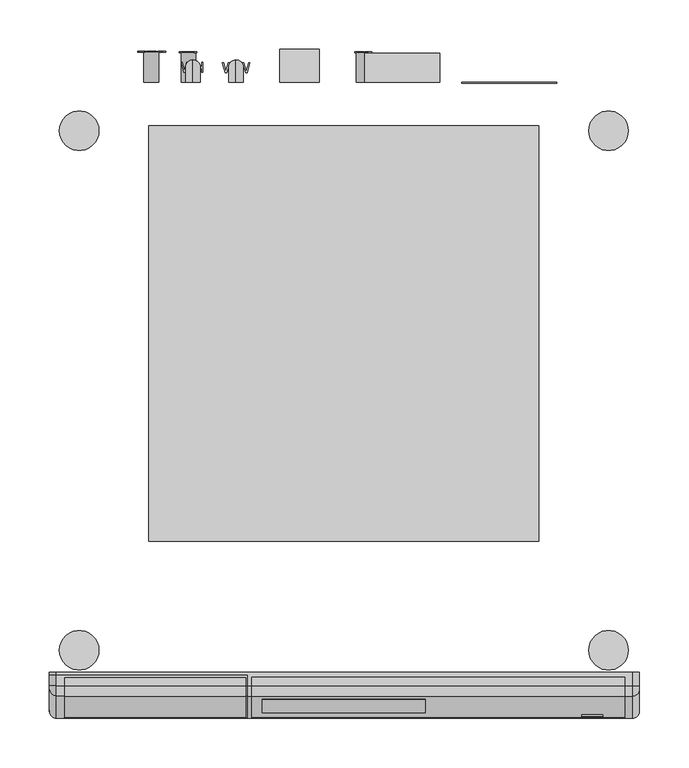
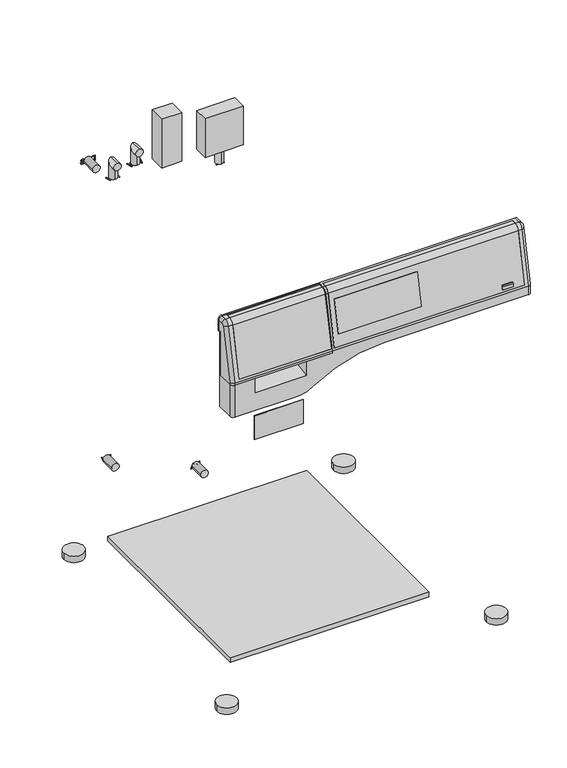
"""IFC4 building model written with IfcOpenShell, lengths in millimetres: proxy geometry, 11087220_NL_PWM507DV_SST : 51507451_NL_11087220_PWM507DV_SST."""

from ifc_helpers import new_model, si_unit, point, frame, frame_2d, origin, origin_with_axes, place, context, project, spatial, polyline, circle_curve, ellipse_curve, trimmed, segment, composite_curve, outline, extrude, source, transform, mapped, element, save
from ifc_brep_helpers import plane_surface, cylinder_surface, revolved_surface, advanced_brep


def specialty_equipment_b1474876(model_context):
    return source(origin(), model_context, "Body", "SolidModel", [
        advanced_brep(
        [(-297.5, -634.5, 819.0), (-297.5, -640.0, 819.0), (-297.5, -640.0, 727.0), (-297.5, -671.0, 727.0), (-297.5, -671.0, 730.2642704), (-297.5, -648.6353607, 835.4816256), (-297.5, -644.8274781, 838.6486082), (-297.5, -634.5, 838.9190427), (-97.5, -655.4823939, 836.9370075), (-97.5, -678.0, 731.0), (-97.5, -678.0, 727.0), (-97.5, -640.0, 727.0), (-97.5, -640.0, 819.0), (-97.5, -634.5, 819.0), (-97.5, -634.5, 845.9214422), (-97.5, -645.0107168, 845.6462094), (-98.5, -655.4823939, 836.9370075), (-98.5, -677.1497738, 735.0), (-282.5, -677.1497738, 735.0), (-282.5, -655.4823939, 836.9370075), (-290.5, -655.4823939, 836.9370075), (-290.5, -678.0, 731.0), (-290.5, -678.0, 727.0), (-290.5, -634.5, 845.9214422), (-290.5, -645.0107168, 845.6462094), (-282.5, -645.0107168, 845.6462094), (-282.5, -636.5, 845.8690704), (-98.5, -636.5, 845.8690704), (-98.5, -645.0107168, 845.6462094), (-98.5, -654.5042463, 836.7290958), (-98.5, -676.1274332, 735.0), (-98.5, -636.5, 844.8687276), (-98.5, -644.9845398, 844.6465521), (-282.5, -654.5042463, 836.7290958), (-282.5, -644.9845398, 844.6465521), (-282.5, -636.5, 844.8687276), (-282.5, -676.1274332, 735.0)],
        [
            (0, 1),
            (1, 2),
            (2, 3),
            (3, 4),
            (4, 5),
            (5, 6, circle_curve(frame((-297.5, -644.7227703, 834.6499789), z_axis=(-1.0, 0.0, 0.0), x_axis=(0.0, -0.978147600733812, 0.20791169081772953)), 4.0)),
            (6, 7),
            (7, 0),
            (8, 9),
            (9, 10),
            (10, 11),
            (11, 12),
            (12, 13),
            (13, 14),
            (14, 15),
            (15, 8, circle_curve(frame((-97.5, -644.7227703, 834.6499789), z_axis=(1.0, 0.0, 0.0), x_axis=(0.0, 1.0, 0.0)), 11.0)),
            (8, 16),
            (16, 17),
            (17, 18),
            (18, 19),
            (19, 20),
            (20, 21),
            (21, 9),
            (21, 22),
            (22, 10),
            (22, 3, circle_curve(frame((-290.5, -671.0, 727.0), z_axis=(0.0, 0.0, -1.0), x_axis=(0.0, 1.0, 0.0)), 7.0)),
            (2, 11),
            (1, 12),
            (0, 13),
            (7, 23, ellipse_curve(frame((-290.5, -634.5, 838.9190427), z_axis=(0.0, 1.0, 0.0), x_axis=(0.0, 0.0, 1.0)), 7.0023995, 7.0)),
            (23, 14),
            (23, 24),
            (24, 25),
            (25, 26),
            (26, 27),
            (27, 28),
            (28, 15),
            (28, 16, circle_curve(frame((-98.5, -644.7227703, 834.6499789), z_axis=(1.0, 0.0, 0.0), x_axis=(0.0, 1.0, 0.0)), 11.0)),
            (19, 25, circle_curve(frame((-282.5, -644.7227703, 834.6499789), z_axis=(-1.0, 0.0, 0.0), x_axis=(0.0, 1.0, 0.0)), 11.0)),
            (24, 20, circle_curve(frame((-290.5, -644.7227703, 834.6499789), z_axis=(1.0, 0.0, 0.0), x_axis=(0.0, 1.0, 0.0)), 11.0)),
            (29, 30),
            (30, 17),
            (27, 31),
            (31, 32),
            (32, 29, circle_curve(frame((-98.5, -644.7227703, 834.6499789), z_axis=(1.0, 0.0, 0.0), x_axis=(0.0, 1.0, 0.0)), 10.0)),
            (33, 34, circle_curve(frame((-282.5, -644.7227703, 834.6499789), z_axis=(-1.0, 0.0, 0.0), x_axis=(0.0, 1.0, 0.0)), 10.0)),
            (34, 35),
            (35, 26),
            (18, 36),
            (36, 33),
            (29, 33),
            (36, 30),
            (32, 34),
            (31, 35),
            (21, 4, ellipse_curve(frame((-290.5, -671.0, 730.2642704), z_axis=(0.0, -0.10452846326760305, -0.9945218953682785), x_axis=(0.0, -0.9945218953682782, 0.1045284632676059)), 7.038558, 7.0)),
            (20, 5, circle_curve(frame((-290.5, -648.6353607, 835.4816256), z_axis=(0.0, -0.2079116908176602, -0.9781476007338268), x_axis=(0.0, 0.9781476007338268, -0.2079116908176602)), 7.0)),
            (24, 6, circle_curve(frame((-290.5, -644.8274781, 838.6486082), z_axis=(0.0, -0.9996573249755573, -0.026176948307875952), x_axis=(0.0, 0.026176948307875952, -0.9996573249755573)), 7.0)),
        ],
        [
            plane_surface(frame((-297.5, -655.4823939, 836.9370075), z_axis=(-1.0, 0.0, 0.0), x_axis=(0.0, 0.20791169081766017, 0.9781476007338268))),
            plane_surface(frame((-97.5, -655.4823939, 836.9370075), z_axis=(1.0, 0.0, 0.0), x_axis=(0.0, -0.20791169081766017, -0.9781476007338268))),
            plane_surface(frame((-97.5, -655.4823939, 836.9370075), z_axis=(0.0, -0.9781476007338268, 0.20791169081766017), x_axis=(-1.0, 0.0, 0.0))),
            plane_surface(frame((-97.5, -678.0, 731.0), z_axis=(0.0, -1.0, 0.0), x_axis=(-1.0, 0.0, 0.0))),
            plane_surface(frame((-97.5, -678.0, 727.0), z_axis=(0.0, 0.0, -1.0), x_axis=(-1.0, 0.0, 0.0))),
            plane_surface(frame((-97.5, -640.0, 727.0), z_axis=(0.0, 1.0, 0.0), x_axis=(-1.0, 0.0, 0.0))),
            plane_surface(frame((-97.5, -640.0, 819.0), z_axis=(0.0, 0.0, -1.0), x_axis=(-1.0, 0.0, 0.0))),
            plane_surface(frame((-97.5, -634.5, 819.0), z_axis=(0.0, 1.0, 0.0), x_axis=(-1.0, 0.0, 0.0))),
            plane_surface(frame((-97.5, -634.5, 845.9214422), z_axis=(0.0, -0.02617694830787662, 0.9996573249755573), x_axis=(-1.0, 0.0, 0.0))),
            cylinder_surface(frame((-297.5, -644.7227703, 834.6499789), z_axis=(1.0, 0.0, 0.0), x_axis=(0.0, 1.0, 0.0)), 11.0),
            plane_surface(frame((-98.5, -634.7227703, 834.6499789), z_axis=(-1.0, 0.0, 0.0), x_axis=(0.0, 0.0, -1.0))),
            plane_surface(frame((-282.5, -634.7227703, 834.6499789), z_axis=(1.0, 0.0, 0.0), x_axis=(0.0, 0.0, 1.0))),
            plane_surface(frame((-98.5, -676.1274332, 735.0), z_axis=(0.0, -0.9781476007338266, 0.2079116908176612), x_axis=(-1.0, 0.0, 0.0))),
            cylinder_surface(frame((-282.5, -644.7227703, 834.6499789), z_axis=(-1.0, 0.0, 0.0), x_axis=(0.0, 1.0, 0.0)), 10.0),
            plane_surface(frame((-98.5, -644.9845398, 844.6465521), z_axis=(0.0, -0.026176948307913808, 0.9996573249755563), x_axis=(-1.0, 0.0, 0.0))),
            plane_surface(frame((-98.5, -636.5, 844.8687276), z_axis=(0.0, -1.0, 0.0), x_axis=(-1.0, 0.0, 0.0))),
            plane_surface(frame((-98.5, -677.1497738, 735.0), z_axis=(0.0, 0.0, 1.0), x_axis=(-1.0, 0.0, 0.0))),
            cylinder_surface(frame((-290.5, -671.0, 727.0), z_axis=(0.0, 0.0, 1.0), x_axis=(0.0, 1.0, 0.0)), 7.0),
            cylinder_surface(frame((-290.5, -671.1529668, 729.5446182), z_axis=(0.0, 0.2079116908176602, 0.9781476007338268), x_axis=(0.0, 0.9781476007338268, -0.2079116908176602)), 7.0),
            revolved_surface(trimmed(ellipse_curve(frame((-290.5, -648.6353607, 835.4816256), z_axis=(0.0, -0.20791169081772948, -0.978147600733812), x_axis=(0.0, 0.978147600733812, -0.20791169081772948)), 7.0, 7.0), [point((-290.5, -655.4823939, 836.9370075))], [point((-297.5, -648.6353607, 835.4816256))], True, "CARTESIAN"), (-297.5, -644.7227703, 834.6499789), (-1.0, 0.0, 0.0)),
            cylinder_surface(frame((-290.5, -644.8274781, 838.6486082), z_axis=(0.0, 0.9996573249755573, 0.026176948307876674), x_axis=(0.0, 0.026176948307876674, -0.9996573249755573)), 7.0),
        ],
        [
            (0, [[1, 2, 3, 4, 5, 6, 7, 8]]),
            (1, [[9, 10, 11, 12, 13, 14, 15, 16]]),
            (2, [[-9, 17, 18, 19, 20, 21, 22, 23]]),
            (3, [[-10, -23, 24, 25]]),
            (4, [[-11, -25, 26, -3, 27]]),
            (5, [[-2, 28, -12, -27]]),
            (6, [[-1, 29, -13, -28]]),
            (7, [[-14, -29, -8, 30, 31]]),
            (8, [[-15, -31, 32, 33, 34, 35, 36, 37]]),
            (9, [[-16, -37, 38, -17]]),
            (9, [[39, -33, 40, -21]]),
            (10, [[41, 42, -18, -38, -36, 43, 44, 45]]),
            (11, [[46, 47, 48, -34, -39, -20, 49, 50]]),
            (12, [[-41, 51, -50, 52]]),
            (13, [[-45, 53, -46, -51]]),
            (14, [[-44, 54, -47, -53]]),
            (15, [[-43, -35, -48, -54]]),
            (16, [[-42, -52, -49, -19]]),
            (17, [[55, -4, -26, -24]]),
            (18, [[-55, -22, 56, -5]]),
            (19, [[-56, -40, 57, -6]]),
            (20, [[-57, -32, -30, -7]]),
        ],
    ),
        extrude(outline(polyline([(-671.2386322, 758.0), (-672.2609728, 758.0), (-658.4447963, 823.0), (-657.4224557, 823.0), (-671.2386322, 758.0)])), frame((-82.5, 0.0, 0.0), z_axis=(1.0, 0.0, 0.0), x_axis=(0.0, 1.0, 0.0)), (0.0, 0.0, 1.0), 165.0),
        advanced_brep(
        [(284.0, -654.5042463, 836.7290958), (284.0, -644.9845398, 844.6465521), (284.0, -636.5, 844.8687276), (284.0, -636.5, 845.8690704), (284.0, -645.0107168, 845.6462094), (284.0, -655.4823939, 836.9370075), (284.0, -677.1497738, 735.0), (284.0, -676.1274332, 735.0), (-93.0, -654.5042463, 836.7290958), (-93.0, -676.1274332, 735.0), (-93.0, -677.1497738, 735.0), (-93.0, -655.4823939, 836.9370075), (-93.0, -645.0107168, 845.6462094), (-93.0, -636.5, 845.8690704), (-93.0, -636.5, 844.8687276), (-93.0, -644.9845398, 844.6465521), (82.5, -658.4447963, 823.0), (82.5, -672.2609728, 758.0), (-82.5, -672.2609728, 758.0), (-82.5, -658.4447963, 823.0), (82.5, -671.2386322, 758.0), (82.5, -657.4224557, 823.0), (-82.5, -657.4224557, 823.0), (-82.5, -671.2386322, 758.0)],
        [
            (0, 1, circle_curve(frame((284.0, -644.7227703, 834.6499789), z_axis=(-1.0, 0.0, 0.0), x_axis=(0.0, 1.0, 0.0)), 10.0)),
            (1, 2),
            (2, 3),
            (3, 4),
            (4, 5, circle_curve(frame((284.0, -644.7227703, 834.6499789), z_axis=(1.0, 0.0, 0.0), x_axis=(0.0, 1.0, 0.0)), 11.0)),
            (5, 6),
            (6, 7),
            (7, 0),
            (8, 9),
            (9, 10),
            (10, 11),
            (11, 12, circle_curve(frame((-93.0, -644.7227703, 834.6499789), z_axis=(-1.0, 0.0, 0.0), x_axis=(0.0, 1.0, 0.0)), 11.0)),
            (12, 13),
            (13, 14),
            (14, 15),
            (15, 8, circle_curve(frame((-93.0, -644.7227703, 834.6499789), z_axis=(1.0, 0.0, 0.0), x_axis=(0.0, 1.0, 0.0)), 10.0)),
            (0, 8),
            (15, 1),
            (14, 2),
            (13, 3),
            (12, 4),
            (11, 5),
            (10, 6),
            (16, 17),
            (17, 18),
            (18, 19),
            (19, 16),
            (9, 7),
            (20, 21),
            (21, 22),
            (22, 23),
            (23, 20),
            (20, 17),
            (16, 21),
            (22, 19),
            (18, 23),
        ],
        [
            plane_surface(frame((284.0, -634.7227703, 834.6499789), z_axis=(1.0, 0.0, 0.0), x_axis=(0.0, 0.0, -1.0))),
            plane_surface(frame((-93.0, -634.7227703, 834.6499789), z_axis=(-1.0, 0.0, 0.0), x_axis=(0.0, 0.0, 1.0))),
            revolved_surface(polyline([(-93.0, -634.7227703, 834.6499789), (284.0, -634.7227703, 834.6499789)]), (-93.0, -644.7227703, 834.6499789), (-1.0, 0.0, 0.0)),
            plane_surface(frame((284.0, -644.9845398, 844.6465521), z_axis=(0.0, 0.02617694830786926, -0.9996573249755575), x_axis=(-1.0, 0.0, 0.0))),
            plane_surface(frame((284.0, -636.5, 844.8687276), z_axis=(0.0, 1.0, 0.0), x_axis=(-1.0, 0.0, 0.0))),
            plane_surface(frame((284.0, -636.5, 845.8690704), z_axis=(0.0, -0.026176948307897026, 0.9996573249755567), x_axis=(-1.0, 0.0, 0.0))),
            cylinder_surface(frame((-93.0, -644.7227703, 834.6499789), z_axis=(1.0, 0.0, 0.0), x_axis=(0.0, 1.0, 0.0)), 11.0),
            plane_surface(frame((284.0, -655.4823939, 836.9370075), z_axis=(0.0, -0.9781476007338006, 0.20791169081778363), x_axis=(-1.0, 0.0, 0.0))),
            plane_surface(frame((284.0, -677.1497738, 735.0), z_axis=(0.0, 0.0, -1.0), x_axis=(-1.0, 0.0, 0.0))),
            plane_surface(frame((284.0, -676.1274332, 735.0), z_axis=(0.0, 0.9781476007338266, -0.2079116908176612), x_axis=(-1.0, 0.0, 0.0))),
            plane_surface(frame((82.5, -658.4447963, 823.0), z_axis=(-1.0, 0.0, 0.0), x_axis=(0.0, -1.0, 0.0))),
            plane_surface(frame((-82.5, -658.4447963, 823.0), z_axis=(1.0, 0.0, 0.0), x_axis=(0.0, 1.0, 0.0))),
            plane_surface(frame((82.5, -657.4224557, 823.0), z_axis=(0.0, 0.0, -1.0), x_axis=(-1.0, 0.0, 0.0))),
            plane_surface(frame((82.5, -672.2609728, 758.0), z_axis=(0.0, 0.0, 1.0), x_axis=(-1.0, 0.0, 0.0))),
        ],
        [
            (0, [[1, 2, 3, 4, 5, 6, 7, 8]]),
            (1, [[9, 10, 11, 12, 13, 14, 15, 16]]),
            (2, [[-1, 17, -16, 18]]),
            (3, [[-2, -18, -15, 19]]),
            (4, [[-3, -19, -14, 20]]),
            (5, [[-4, -20, -13, 21]]),
            (6, [[-5, -21, -12, 22]]),
            (7, [[-6, -22, -11, 23], [24, 25, 26, 27]]),
            (8, [[-7, -23, -10, 28]]),
            (9, [[-8, -28, -9, -17], [29, 30, 31, 32]]),
            (10, [[33, -24, 34, -29]]),
            (11, [[35, -26, 36, -31]]),
            (12, [[-34, -27, -35, -30]]),
            (13, [[-33, -32, -36, -25]]),
        ],
    ),
        advanced_brep(
        [(298.5, -637.0, 816.0), (298.5, -631.5, 816.0), (298.5, -631.5, 838.9976005), (298.5, -644.8274781, 838.6486082), (298.5, -648.6353607, 835.4816256), (298.5, -671.0, 730.2642704), (298.5, -671.0, 713.0), (298.5, -637.0, 713.0), (-297.5, -637.0, 816.0), (-297.5, -637.0, 660.0), (-297.5, -671.0, 660.0), (-297.5, -671.0, 727.0), (-297.5, -640.0, 727.0), (-297.5, -640.0, 819.0), (-297.5, -634.5, 819.0), (-297.5, -634.5, 838.9190427), (-297.5, -631.5, 838.9976005), (-297.5, -631.5, 816.0), (-290.5, -631.5, 846.0), (291.5, -631.5, 846.0), (284.0, -636.5, 845.8690704), (284.0, -645.0107168, 845.6462094), (291.5, -645.0107168, 845.6462094), (-290.5, -634.5, 845.9214422), (-97.5, -634.5, 845.9214422), (-97.5, -645.0107168, 845.6462094), (-93.0, -645.0107168, 845.6462094), (-93.0, -636.5, 845.8690704), (284.0, -655.4823939, 836.9370075), (291.5000072, -655.4823939, 836.9370075), (-93.0, -655.4823939, 836.9370075), (-97.5, -655.4823939, 836.9370075), (284.0, -677.1497738, 735.0), (-93.0, -677.1497738, 735.0), (-97.5, -678.0, 731.0), (291.5, -678.0, 731.0), (-97.5, -678.0, 727.0), (-148.5, -678.0, 727.0), (-148.5, -678.0, 697.0), (-251.5, -678.0, 697.0), (-251.5, -678.0, 727.0), (-290.5, -678.0, 727.0), (-290.5, -678.0, 660.0), (-170.6302935, -678.0, 660.0), (-135.780818, -678.0, 670.5165354), (5.0, -678.0, 713.0), (291.5, -678.0, 713.0), (-170.6302935, -637.0, 660.0), (5.0, -637.0, 713.0), (-135.780818, -637.0, 670.5165354), (284.0, -636.5, 844.8687276), (284.0, -644.9845398, 844.6465521), (284.0, -654.5042463, 836.7290958), (284.0, -676.1274332, 735.0), (-93.0, -676.1274332, 735.0), (-93.0, -654.5042463, 836.7290958), (-93.0, -644.9845398, 844.6465521), (-93.0, -636.5, 844.8687276), (-97.5, -634.5, 819.0), (-97.5, -640.0, 819.0), (-97.5, -640.0, 727.0), (-148.5, -640.0, 727.0), (-251.5, -640.0, 727.0), (-251.5, -640.0, 703.7004253), (-148.5, -640.0, 703.7004253)],
        [
            (0, 1),
            (1, 2),
            (2, 3),
            (3, 4, circle_curve(frame((298.5, -644.7227703, 834.6499789), z_axis=(1.0, 0.0, 0.0), x_axis=(0.0, -0.02617694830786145, 0.9996573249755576)), 4.0)),
            (4, 5),
            (5, 6),
            (6, 7),
            (7, 0),
            (8, 9),
            (9, 10),
            (10, 11),
            (11, 12),
            (12, 13),
            (13, 14),
            (14, 15),
            (15, 16),
            (16, 17),
            (17, 8),
            (0, 8),
            (17, 1),
            (16, 18, ellipse_curve(frame((-290.5, -631.5, 838.9976005), z_axis=(0.0, 1.0, 0.0), x_axis=(0.0, 0.0, 0.9999999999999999)), 7.0023995, 7.0)),
            (18, 19),
            (19, 2, ellipse_curve(frame((291.5, -631.5, 838.9976005), z_axis=(0.0, 1.0, 0.0), x_axis=(0.0, 0.0, -1.0)), 7.0023995, 7.0)),
            (20, 21),
            (21, 22),
            (22, 19),
            (18, 23),
            (23, 24),
            (24, 25),
            (25, 26),
            (26, 27),
            (27, 20),
            (21, 28, circle_curve(frame((284.0, -644.7227703, 834.6499789), z_axis=(1.0, 0.0, 0.0), x_axis=(0.0, 1.0, 0.0)), 11.0)),
            (28, 29),
            (29, 22, circle_curve(frame((291.5, -644.7227703, 834.6499789), z_axis=(-1.0, 0.0, 0.0), x_axis=(0.0, 1.0, 0.0)), 11.0)),
            (30, 26, circle_curve(frame((-93.0, -644.7227703, 834.6499789), z_axis=(-1.0, 0.0, 0.0), x_axis=(0.0, 1.0, 0.0)), 11.0)),
            (25, 31, circle_curve(frame((-97.5, -644.7227703, 834.6499789), z_axis=(1.0, 0.0, 0.0), x_axis=(0.0, 1.0, 0.0)), 11.0)),
            (31, 30),
            (28, 32),
            (32, 33),
            (33, 30),
            (31, 34),
            (34, 35),
            (35, 29),
            (34, 36),
            (36, 37),
            (37, 38),
            (38, 39),
            (39, 40),
            (40, 41),
            (41, 42),
            (42, 43),
            (43, 44, circle_curve(frame((-170.6302935, -678.0, 723.0), z_axis=(0.0, -1.0, 0.0), x_axis=(1.0, 0.0, 0.0)), 63.0)),
            (44, 45, circle_curve(frame((5.0, -678.0, 458.5), z_axis=(0.0, 1.0, 0.0), x_axis=(1.0, 0.0, 0.0)), 254.5)),
            (45, 46),
            (46, 35),
            (9, 47),
            (47, 43),
            (42, 10, circle_curve(frame((-290.5, -671.0, 660.0), z_axis=(0.0, 0.0, -1.0), x_axis=(0.0, 1.0, 0.0)), 7.0)),
            (7, 48),
            (48, 49, circle_curve(frame((5.0, -637.0, 458.5), z_axis=(0.0, -1.0, 0.0), x_axis=(1.0, 0.0, 0.0)), 254.5)),
            (49, 47, circle_curve(frame((-170.6302935, -637.0, 723.0), z_axis=(0.0, 1.0, 0.0), x_axis=(1.0, 0.0, 0.0)), 63.0)),
            (20, 50),
            (50, 51),
            (51, 52, circle_curve(frame((284.0, -644.7227703, 834.6499789), z_axis=(1.0, 0.0, 0.0), x_axis=(0.0, 1.0, 0.0)), 10.0)),
            (52, 53),
            (53, 32),
            (33, 54),
            (54, 55),
            (55, 56, circle_curve(frame((-93.0, -644.7227703, 834.6499789), z_axis=(-1.0, 0.0, 0.0), x_axis=(0.0, 1.0, 0.0)), 10.0)),
            (56, 57),
            (57, 27),
            (53, 54),
            (52, 55),
            (51, 56),
            (50, 57),
            (24, 58),
            (58, 59),
            (59, 60),
            (60, 36),
            (60, 61),
            (61, 37),
            (62, 12),
            (11, 41, circle_curve(frame((-290.5, -671.0, 727.0), z_axis=(0.0, 0.0, 1.0), x_axis=(0.0, 1.0, 0.0)), 7.0)),
            (40, 62),
            (59, 13),
            (62, 63),
            (63, 64),
            (64, 61),
            (58, 14),
            (23, 15, ellipse_curve(frame((-290.5, -634.5, 838.9190427), z_axis=(0.0, -1.0, 0.0), x_axis=(0.0, 0.0, 0.9999999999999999)), 7.0023995, 7.0)),
            (64, 38),
            (39, 63),
            (22, 3, circle_curve(frame((291.5, -644.8274781, 838.6486082), z_axis=(0.0, 0.9996573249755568, 0.02617694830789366), x_axis=(1.0, 0.0, 0.0)), 7.0)),
            (29, 4, circle_curve(frame((291.5, -648.6353607, 835.4816256), z_axis=(0.0, 0.20791169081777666, 0.9781476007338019), x_axis=(1.0, 0.0, 0.0)), 7.0)),
            (35, 5, ellipse_curve(frame((291.5, -671.0, 730.2642704), z_axis=(0.0, 0.10452846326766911, 0.9945218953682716), x_axis=(0.0, -0.9945218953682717, 0.10452846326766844)), 7.038558, 7.0)),
            (46, 6, circle_curve(frame((291.5, -671.0, 713.0), z_axis=(0.0, 0.0, 1.0), x_axis=(1.0, 0.0, 0.0)), 7.0)),
            (45, 48),
            (44, 49),
        ],
        [
            plane_surface(frame((298.5, -631.5, 816.0), z_axis=(1.0, 0.0, 0.0), x_axis=(0.0, 1.0, 0.0))),
            plane_surface(frame((-297.5, -631.5, 816.0), z_axis=(-1.0, 0.0, 0.0), x_axis=(0.0, -1.0, 0.0))),
            plane_surface(frame((298.5, -637.0, 816.0), z_axis=(0.0, 0.0, -1.0), x_axis=(-1.0, 0.0, 0.0))),
            plane_surface(frame((298.5, -631.5, 816.0), z_axis=(0.0, 1.0, 0.0), x_axis=(-1.0, 0.0, 0.0))),
            plane_surface(frame((298.5, -631.5, 846.0), z_axis=(0.0, -0.026176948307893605, 0.9996573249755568), x_axis=(-1.0, 0.0, 0.0))),
            cylinder_surface(frame((-297.5, -644.7227703, 834.6499789), z_axis=(1.0, 0.0, 0.0), x_axis=(0.0, 1.0, 0.0)), 11.0),
            plane_surface(frame((298.5, -655.4823939, 836.9370075), z_axis=(0.0, -0.9781476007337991, 0.20791169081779), x_axis=(-1.0, 0.0, 0.0))),
            plane_surface(frame((298.5, -678.0, 731.0), z_axis=(0.0, -1.0, 0.0), x_axis=(-1.0, 0.0, 0.0))),
            plane_surface(frame((298.5, -678.0, 660.0), z_axis=(0.0, 0.0, -1.0), x_axis=(-1.0, 0.0, 0.0))),
            plane_surface(frame((298.5, -637.0, 660.0), z_axis=(0.0, 1.0, 0.0), x_axis=(-1.0, 0.0, 0.0))),
            plane_surface(frame((284.0, -677.1497738, 735.0), z_axis=(-1.0, 0.0, 0.0), x_axis=(0.0, 1.0, 0.0))),
            plane_surface(frame((-93.0, -677.1497738, 735.0), z_axis=(1.0, 0.0, 0.0), x_axis=(0.0, -1.0, 0.0))),
            plane_surface(frame((284.0, -677.1497738, 735.0), z_axis=(0.0, 0.0, 1.0), x_axis=(-1.0, 0.0, 0.0))),
            plane_surface(frame((284.0, -676.1274332, 735.0), z_axis=(0.0, -0.9781476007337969, 0.20791169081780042), x_axis=(-1.0, 0.0, 0.0))),
            cylinder_surface(frame((-93.0, -644.7227703, 834.6499789), z_axis=(-1.0, 0.0, 0.0), x_axis=(0.0, 1.0, 0.0)), 10.0),
            plane_surface(frame((284.0, -644.9845398, 844.6465521), z_axis=(0.0, -0.026176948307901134, 0.9996573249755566), x_axis=(-1.0, 0.0, 0.0))),
            plane_surface(frame((284.0, -636.5, 844.8687276), z_axis=(0.0, -1.0, 0.0), x_axis=(-1.0, 0.0, 0.0))),
            plane_surface(frame((-97.5, -678.0, 727.0), z_axis=(-1.0, 0.0, 0.0), x_axis=(0.0, 1.0, 0.0))),
            plane_surface(frame((-97.5, -678.0, 727.0), z_axis=(0.0, 0.0, 1.0), x_axis=(-1.0, 0.0, 0.0))),
            plane_surface(frame((-97.5, -640.0, 727.0), z_axis=(0.0, -1.0, 0.0), x_axis=(-1.0, 0.0, 0.0))),
            plane_surface(frame((-97.5, -640.0, 819.0), z_axis=(0.0, 0.0, 1.0), x_axis=(-1.0, 0.0, 0.0))),
            plane_surface(frame((-97.5, -634.5, 819.0), z_axis=(0.0, -1.0, 0.0), x_axis=(-1.0, 0.0, 0.0))),
            plane_surface(frame((-148.5, -678.0, 697.0), z_axis=(-1.0000000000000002, 0.0, 0.0), x_axis=(0.0, 0.9848077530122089, 0.17364817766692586))),
            plane_surface(frame((-251.5, -678.0, 697.0), z_axis=(1.0000000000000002, 0.0, 0.0), x_axis=(0.0, -0.9848077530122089, -0.17364817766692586))),
            plane_surface(frame((-148.5, -678.0, 697.0), z_axis=(0.0, -0.17364817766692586, 0.9848077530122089), x_axis=(-1.0, 0.0, 0.0))),
            cylinder_surface(frame((-290.5, -671.0, 660.0), z_axis=(0.0, 0.0, 1.0), x_axis=(0.0, 1.0, 0.0)), 7.0),
            cylinder_surface(frame((-290.5, -644.8274781, 838.6486082), z_axis=(0.0, 0.9996573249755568, 0.02617694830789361), x_axis=(0.0, 0.02617694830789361, -0.9996573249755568)), 7.0),
            cylinder_surface(frame((291.5, -631.3167614, 839.0023987), z_axis=(0.0, -0.9996573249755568, -0.02617694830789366), x_axis=(1.0, 0.0, 0.0)), 7.0),
            revolved_surface(trimmed(ellipse_curve(frame((291.5, -644.8274781, 838.6486082), z_axis=(0.0, 0.9996573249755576, 0.026176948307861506), x_axis=(1.0, 0.0, 0.0)), 7.0, 7.0), [point((291.5, -645.0107168, 845.6462094))], [point((298.5, -644.8274781, 838.6486082))], True, "CARTESIAN"), (298.5, -644.7227703, 834.6499789), (1.0, 0.0, 0.0)),
            cylinder_surface(frame((291.5, -648.6353607, 835.4816256), z_axis=(0.0, -0.20791169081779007, -0.9781476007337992), x_axis=(1.0, 0.0, 0.0)), 7.0),
            cylinder_surface(frame((291.5, -671.0, 731.0), z_axis=(0.0, 0.0, -1.0), x_axis=(1.0, 0.0, 0.0)), 7.0),
            plane_surface(frame((298.5, -678.0, 713.0), z_axis=(0.0, 0.0, -1.0), x_axis=(0.0, 1.0, 0.0))),
            revolved_surface(polyline([(259.5, -678.0, 458.5), (259.5, -637.0, 458.5)]), (5.0, -637.0, 458.5), (0.0, -1.0, 0.0)),
            cylinder_surface(frame((-170.6302935, -637.0, 723.0), z_axis=(0.0, 1.0, 0.0), x_axis=(1.0, 0.0, 0.0)), 63.0),
        ],
        [
            (0, [[1, 2, 3, 4, 5, 6, 7, 8]]),
            (1, [[9, 10, 11, 12, 13, 14, 15, 16, 17, 18]]),
            (2, [[-1, 19, -18, 20]]),
            (3, [[-20, -17, 21, 22, 23, -2]]),
            (4, [[24, 25, 26, -22, 27, 28, 29, 30, 31, 32]]),
            (5, [[33, 34, 35, -25]]),
            (5, [[36, -30, 37, 38]]),
            (6, [[39, 40, 41, -38, 42, 43, 44, -34]]),
            (7, [[45, 46, 47, 48, 49, 50, 51, 52, 53, 54, 55, 56, -43]]),
            (8, [[-10, 57, 58, -52, 59]]),
            (9, [[-9, -19, -8, 60, 61, 62, -57]]),
            (10, [[63, 64, 65, 66, 67, -39, -33, -24]]),
            (11, [[68, 69, 70, 71, 72, -31, -36, -41]]),
            (12, [[-67, 73, -68, -40]]),
            (13, [[-66, 74, -69, -73]]),
            (14, [[-65, 75, -70, -74]]),
            (15, [[-64, 76, -71, -75]]),
            (16, [[-63, -32, -72, -76]]),
            (17, [[77, 78, 79, 80, -45, -42, -37, -29]]),
            (18, [[-80, 81, 82, -46]]),
            (18, [[83, -12, 84, -50, 85]]),
            (19, [[-79, 86, -13, -83, 87, 88, 89, -81]]),
            (20, [[-78, 90, -14, -86]]),
            (21, [[-77, -28, 91, -15, -90]]),
            (22, [[-89, 92, -47, -82]]),
            (23, [[93, -87, -85, -49]]),
            (24, [[-92, -88, -93, -48]]),
            (25, [[-11, -59, -51, -84]]),
            (26, [[-16, -91, -27, -21]]),
            (27, [[94, -3, -23, -26]]),
            (28, [[-94, -35, 95, -4]]),
            (29, [[-95, -44, 96, -5]]),
            (30, [[-96, -56, 97, -6]]),
            (31, [[98, -60, -7, -97, -55]]),
            (32, [[-98, -54, 99, -61]]),
            (33, [[-99, -53, -58, -62]]),
        ],
    ),
        extrude(outline(polyline([(-675.8744344, 741.0), (-678.0, 741.0), (-676.8772818, 746.2819736), (-675.6098453, 749.0), (-674.1739819, 749.0), (-675.8744344, 741.0)])), frame((240.5, 0.0, 0.0), z_axis=(1.0, 0.0, 0.0), x_axis=(0.0, 1.0, 0.0)), (0.0, 0.0, 1.0), 21.0),
        extrude(outline(composite_curve([segment(polyline([(-676.1274332, 735.0), (-677.1497738, 735.0), (-655.4823939, 836.9370075)]), True, "CONTINUOUS"), segment(trimmed(circle_curve(frame_2d((-644.7227703, 834.6499789)), 11.0), [point((-655.4823939, 836.9370075))], [point((-645.0107168, 845.6462094))], False, "CARTESIAN"), True, "CONTINUOUS"), segment(polyline([(-645.0107168, 845.6462094), (-636.5, 845.8690704), (-636.5, 844.8687276), (-644.9845398, 844.6465521)]), True, "CONTINUOUS"), segment(trimmed(circle_curve(frame_2d((-644.7227703, 834.6499789)), 10.0), [point((-644.9845398, 844.6465521))], [point((-654.5042463, 836.7290958))], True, "CARTESIAN"), True, "CONTINUOUS"), segment(polyline([(-654.5042463, 836.7290958), (-676.1274332, 735.0)]), True, "CONTINUOUS")], self_intersect=False)), frame((-282.5, 0.0, 0.0), z_axis=(1.0, 0.0, 0.0), x_axis=(0.0, 1.0, 0.0)), (0.0, 0.0, 1.0), 184.0),
        extrude(outline(composite_curve([segment(trimmed(circle_curve(frame_2d((757.5, -194.5)), 7.5), [point((757.5, -187.0))], [point((757.5, -202.0))], False, "CARTESIAN"), True, "CONTINUOUS"), segment(trimmed(circle_curve(frame_2d((757.5, -194.5)), 7.5), [point((757.5, -202.0))], [point((757.5, -187.0))], False, "CARTESIAN"), True, "CONTINUOUS")], self_intersect=False)), frame((0.0, -35.0, 0.0), z_axis=(0.0, 1.0, 0.0), x_axis=(0.0, 0.0, 1.0)), (0.0, 0.0, 1.0), 30.0),
        extrude(outline(polyline([(752.5, -179.9815352), (762.545631, -179.9815352), (762.545631, -183.4469836), (762.4009308, -185.2397952), (761.6823346, -186.7162282), (759.965552, -187.9057134), (757.5767715, -188.3005734), (755.5497417, -188.0332458), (754.0867977, -187.3465327), (753.1756766, -186.4292803), (752.6716783, -185.2287587), (752.5, -183.6137568), (752.5, -179.9815352)]), holes=[polyline([(753.7557039, -181.2372391), (753.7557039, -183.4592463), (753.9371923, -185.0754745), (754.4497746, -186.0074423), (755.6968945, -186.7714105), (757.5963919, -187.0448695), (759.9753621, -186.5089881), (761.0888183, -185.2054595), (761.2899271, -183.4249107), (761.2899271, -181.2372391), (753.7557039, -181.2372391)])]), frame((0.0, -5.0, 0.0), z_axis=(0.0, 1.0, 0.0), x_axis=(0.0, 0.0, 1.0)), (0.0, 0.0, 1.0), 1.0),
        extrude(outline(polyline([(757.390378, -189.5562772), (761.2923797, -190.8953677), (762.702594, -194.3510059), (762.0404064, -196.8501509), (760.1936388, -198.5473132), (757.5056477, -199.1310193), (754.7808684, -198.5166564), (752.9610788, -196.7753483), (752.343037, -194.3436483), (753.0260713, -191.8175252), (754.8900067, -190.1301732), (757.390378, -189.5562772)]), holes=[polyline([(757.3781153, -190.8119811), (754.6091901, -191.816299), (753.5987409, -194.3362906), (754.6190003, -196.8783552), (757.5154579, -197.8753154), (759.5878598, -197.4485723), (760.9600596, -196.2014524), (761.4468901, -194.3583636), (760.508791, -191.8592185), (757.3781153, -190.8119811)])]), frame((0.0, -5.0, 0.0), z_axis=(0.0, 1.0, 0.0), x_axis=(0.0, 0.0, 1.0)), (0.0, 0.0, 1.0), 1.0),
        extrude(outline(polyline([(755.9531857, -200.3867232), (755.9531857, -201.6424271), (754.6962555, -202.0470973), (753.9016304, -203.0354736), (753.5987409, -204.5413372), (753.828054, -205.8534496), (754.4583585, -206.7008045), (755.3008083, -206.9791685), (756.0843969, -206.7707021), (756.654614, -205.9172158), (757.1340869, -204.0888423), (757.7533549, -202.1206737), (758.6877752, -201.0525896), (759.9361214, -200.7006492), (761.3573722, -201.1359762), (762.3604637, -202.4076216), (762.702594, -204.2691045), (762.3445222, -206.2556673), (761.2923797, -207.5800425), (759.7202973, -208.0779094), (759.7202973, -206.8222056), (761.0103368, -206.110967), (761.4468901, -204.3181554), (761.0152419, -202.5204388), (759.9729096, -201.956353), (759.1022555, -202.3561181), (758.4008272, -204.4064471), (757.7705227, -206.6284544), (756.7527159, -207.8436912), (755.3326914, -208.2348724), (753.8305065, -207.7848301), (752.7342182, -206.4898855), (752.343037, -204.5903881), (752.764875, -202.3475342), (754.0352942, -200.928736), (755.9531857, -200.3867232)])), frame((0.0, -5.0, 0.0), z_axis=(0.0, 1.0, 0.0), x_axis=(0.0, 0.0, 1.0)), (0.0, 0.0, 1.0), 1.0),
        advanced_brep(
        [(-152.5, -35.0, 739.0), (-152.5, -35.0, 754.0), (-152.5, -27.5, 739.0), (-152.5, -12.5, 754.0), (-152.5, -27.5, 716.5), (-152.5, -12.5, 716.5)],
        [
            (0, 1, circle_curve(frame((-152.5, -35.0, 746.5), z_axis=(0.0, -1.0, 0.0), x_axis=(0.0, 0.0, 1.0)), 7.5)),
            (1, 0, circle_curve(frame((-152.5, -35.0, 746.5), z_axis=(0.0, -1.0, 0.0), x_axis=(0.0, 0.0, 1.0)), 7.5)),
            (0, 2),
            (2, 3, ellipse_curve(frame((-152.5, -20.0, 746.5), z_axis=(0.0, -0.7071067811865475, 0.7071067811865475), x_axis=(0.0, -0.7071067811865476, -0.7071067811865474)), 10.6066017, 7.5)),
            (3, 1),
            (3, 2, ellipse_curve(frame((-152.5, -20.0, 746.5), z_axis=(0.0, -0.7071067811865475, 0.7071067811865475), x_axis=(0.0, -0.7071067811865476, -0.7071067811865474)), 10.6066017, 7.5)),
            (4, 5, circle_curve(frame((-152.5, -20.0, 716.5), z_axis=(0.0, 0.0, -1.0), x_axis=(0.0, 1.0, 0.0)), 7.5)),
            (5, 4, circle_curve(frame((-152.5, -20.0, 716.5), z_axis=(0.0, 0.0, -1.0), x_axis=(0.0, 1.0, 0.0)), 7.5)),
            (2, 4),
            (5, 3),
        ],
        [
            plane_surface(frame((-298.0, -35.0, 746.5), z_axis=(0.0, -1.0, 0.0), x_axis=(1.0, 0.0, 0.0))),
            cylinder_surface(frame((-152.5, -35.0, 746.5), z_axis=(0.0, -1.0, 0.0), x_axis=(0.0, 0.0, 1.0)), 7.5),
            plane_surface(frame((-298.0, -20.0, 716.5), z_axis=(0.0, 0.0, -1.0), x_axis=(1.0, 0.0, 0.0))),
            cylinder_surface(frame((-152.5, -20.0, 746.5), z_axis=(0.0, 0.0, 1.0), x_axis=(0.0, 1.0, 0.0)), 7.5),
        ],
        [
            (0, [[1, 2]]),
            (1, [[-1, 3, 4, 5]]),
            (1, [[-2, -5, 6, -3]]),
            (2, [[7, 8]]),
            (3, [[-4, 9, -8, 10]]),
            (3, [[-6, -10, -7, -9]]),
        ],
    ),
        advanced_brep(
        [(-109.0, -35.0, 753.5), (-109.0, -35.0, 768.5), (-109.0, -27.5, 753.5), (-109.0, -12.5, 768.5), (-109.0, -27.5, 731.0), (-109.0, -12.5, 731.0)],
        [
            (0, 1, circle_curve(frame((-109.0, -35.0, 761.0), z_axis=(0.0, -1.0, 0.0), x_axis=(0.0, 0.0, 1.0)), 7.5)),
            (1, 0, circle_curve(frame((-109.0, -35.0, 761.0), z_axis=(0.0, -1.0, 0.0), x_axis=(0.0, 0.0, 1.0)), 7.5)),
            (0, 2),
            (2, 3, ellipse_curve(frame((-109.0, -20.0, 761.0), z_axis=(0.0, -0.7071067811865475, 0.7071067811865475), x_axis=(0.0, -0.7071067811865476, -0.7071067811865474)), 10.6066017, 7.5)),
            (3, 1),
            (3, 2, ellipse_curve(frame((-109.0, -20.0, 761.0), z_axis=(0.0, -0.7071067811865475, 0.7071067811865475), x_axis=(0.0, -0.7071067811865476, -0.7071067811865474)), 10.6066017, 7.5)),
            (4, 5, circle_curve(frame((-109.0, -20.0, 731.0), z_axis=(0.0, 0.0, -1.0), x_axis=(0.0, 1.0, 0.0)), 7.5)),
            (5, 4, circle_curve(frame((-109.0, -20.0, 731.0), z_axis=(0.0, 0.0, -1.0), x_axis=(0.0, 1.0, 0.0)), 7.5)),
            (2, 4),
            (5, 3),
        ],
        [
            plane_surface(frame((-298.0, -35.0, 761.0), z_axis=(0.0, -1.0, 0.0), x_axis=(1.0, 0.0, 0.0))),
            cylinder_surface(frame((-109.0, -35.0, 761.0), z_axis=(0.0, -1.0, 0.0), x_axis=(0.0, 0.0, 1.0)), 7.5),
            plane_surface(frame((-298.0, -20.0, 731.0), z_axis=(0.0, 0.0, -1.0), x_axis=(1.0, 0.0, 0.0))),
            cylinder_surface(frame((-109.0, -20.0, 761.0), z_axis=(0.0, 0.0, 1.0), x_axis=(0.0, 1.0, 0.0)), 7.5),
        ],
        [
            (0, [[1, 2]]),
            (1, [[-1, 3, 4, 5]]),
            (1, [[-2, -5, 6, -3]]),
            (2, [[7, 8]]),
            (3, [[-4, 9, -8, 10]]),
            (3, [[-6, -10, -7, -9]]),
        ],
    ),
        extrude(outline(polyline([(-142.5237638, -25.0), (-143.7834134, -25.0), (-143.7834134, -21.5422104), (-145.4717236, -19.9295918), (-149.3062539, -24.9960047), (-150.8371057, -24.9960047), (-146.3635304, -19.0812626), (-150.682024, -14.9545468), (-148.9188384, -14.9545468), (-143.7734276, -19.8714576), (-143.7734276, -14.9547748), (-142.5237638, -14.9547748), (-142.5237638, -25.0)])), frame((0.0, 0.0, 715.5), z_axis=(0.0, 0.0, 1.0), x_axis=(1.0, 0.0, 0.0)), (0.0, 0.0, 1.0), 1.0),
        extrude(outline(polyline([(-153.5799346, -25.0), (-155.1013346, -25.0), (-157.6681659, -16.1680585), (-160.4132353, -25.0), (-161.7588291, -25.0), (-164.4977428, -14.9547748), (-163.1999912, -14.9547748), (-161.1258941, -23.5916213), (-158.6010837, -14.9547748), (-156.7331206, -14.9547748), (-154.2135942, -23.5959701), (-152.1412312, -14.9547748), (-150.8442078, -14.9547748), (-153.5799346, -25.0)])), frame((0.0, 0.0, 715.5), z_axis=(0.0, 0.0, 1.0), x_axis=(1.0, 0.0, 0.0)), (0.0, 0.0, 1.0), 1.0),
        extrude(outline(polyline([(-97.7677732, -25.6276222), (-99.2866418, -25.6276222), (-101.8572009, -16.7897083), (-104.60351, -25.6247434), (-105.9438154, -25.6247434), (-108.6845916, -15.5772781), (-107.3877267, -15.5772781), (-105.310674, -24.218418), (-102.7878261, -15.5770934), (-100.9207392, -15.5770934), (-98.4046917, -24.2181787), (-96.3224721, -15.5728546), (-95.0253096, -15.5728546), (-97.7677732, -25.6276222)])), frame((0.0, 0.0, 730.0), z_axis=(0.0, 0.0, 1.0), x_axis=(1.0, 0.0, 0.0)), (0.0, 0.0, 1.0), 1.0),
        extrude(outline(polyline([(-119.9168184, -25.6276222), (-122.659282, -15.5728546), (-121.3621195, -15.5728546), (-119.2799, -24.2181787), (-116.7638525, -15.5770934), (-114.8967656, -15.5770934), (-112.3739176, -24.218418), (-110.2968649, -15.5772781), (-109.0, -15.5772781), (-111.7407762, -25.6276222), (-113.0810816, -25.6276222), (-115.8273907, -16.7897083), (-118.3979499, -25.6276222), (-119.9168184, -25.6276222)])), frame((0.0, 0.0, 730.0), z_axis=(0.0, 0.0, 1.0), x_axis=(1.0, 0.0, 0.0)), (0.0, 0.0, 1.0), 1.0),
        extrude(outline(polyline([(119.0, -35.0), (215.0, -35.0), (215.0, -36.0), (119.0, -36.0), (119.0, -35.0)])), frame((0.0, 0.0, 80.0), z_axis=(0.0, 0.0, 1.0), x_axis=(1.0, 0.0, 0.0)), (0.0, 0.0, 1.0), 50.0),
        extrude(outline(polyline([(-25.0, -2.0), (-25.0, -35.0), (-65.0, -35.0), (-65.0, -2.0), (-25.0, -2.0)])), frame((0.0, 0.0, 714.0), z_axis=(0.0, 0.0, 1.0), x_axis=(1.0, 0.0, 0.0)), (0.0, 0.0, 1.0), 102.0),
        extrude(outline(composite_curve([segment(polyline([(37.0012365, 26.8350179), (37.0012365, 28.0926569), (47.0457018, 28.0926569), (47.0457018, 24.2588697)]), True, "CONTINUOUS"), segment(trimmed(circle_curve(frame_2d((44.0634182, 24.2588697)), 2.9822837), [point((47.0457018, 24.2588697))], [point((41.0811345, 24.2588697))], False, "CARTESIAN"), True, "CONTINUOUS"), segment(polyline([(41.0811345, 24.2588697), (41.0811345, 26.8350179), (37.0012365, 26.8350179)]), True, "CONTINUOUS")], self_intersect=False), holes=[composite_curve([segment(trimmed(circle_curve(frame_2d((44.0644309, 24.2588697)), 1.7264899), [point((42.3379411, 24.2588697))], [point((45.7909208, 24.2588697))], True, "CARTESIAN"), True, "CONTINUOUS"), segment(polyline([(45.7909208, 24.2588697), (45.7909208, 26.8350179), (42.3379411, 26.8350179), (42.3379411, 24.2588697)]), True, "CONTINUOUS")], self_intersect=False)]), frame((0.0, -5.0, 0.0), z_axis=(0.0, 1.0, 0.0), x_axis=(0.0, 0.0, 1.0)), (0.0, 0.0, 1.0), 1.0),
        extrude(outline(polyline([(37.0006445, 18.6718375), (37.0006445, 20.0), (47.0451716, 15.9923232), (47.0451716, 14.9218811), (37.0004865, 10.9106116), (37.0004865, 12.2393282), (40.1391224, 13.3892124), (40.1391224, 17.526368), (37.0006445, 18.6718375)]), holes=[polyline([(41.3966781, 13.8483756), (45.7905035, 15.4566766), (41.3966781, 17.0651073), (41.3966781, 13.8483756)])]), frame((0.0, -5.0, 0.0), z_axis=(0.0, 1.0, 0.0), x_axis=(0.0, 0.0, 1.0)), (0.0, 0.0, 1.0), 1.0),
        extrude(outline(composite_curve([segment(trimmed(circle_curve(frame_2d((42.0, 20.0)), 7.5), [point((42.0, 27.5))], [point((42.0, 12.5))], False, "CARTESIAN"), True, "CONTINUOUS"), segment(trimmed(circle_curve(frame_2d((42.0, 20.0)), 7.5), [point((42.0, 12.5))], [point((42.0, 27.5))], False, "CARTESIAN"), True, "CONTINUOUS")], self_intersect=False)), frame((0.0, -35.0, 0.0), z_axis=(0.0, 1.0, 0.0), x_axis=(0.0, 0.0, 1.0)), (0.0, 0.0, 1.0), 30.0),
        extrude(outline(polyline([(54.7566495, -26.4555134), (48.4761766, -26.4555134), (48.4761766, -25.1997667), (53.4981583, -25.1997667), (53.4981583, -16.4081759), (54.7566495, -16.4081759), (54.7566495, -26.4555134)])), frame((0.0, 0.0, 675.0), z_axis=(0.0, 0.0, 1.0), x_axis=(1.0, 0.0, 0.0)), (0.0, 0.0, 1.0), 1.0),
        extrude(outline(polyline([(64.0215267, -16.4081759), (64.0215267, -26.4554669), (56.6392877, -26.4554669), (56.6392877, -25.1995171), (62.7595964, -25.1995171), (62.7595964, -21.9031269), (57.1079823, -21.9031269), (57.1079823, -20.6478177), (62.7596269, -20.6478177), (62.7596269, -17.6653752), (56.7945524, -17.6653752), (56.7945524, -16.4081759), (64.0215267, -16.4081759)])), frame((0.0, 0.0, 675.0), z_axis=(0.0, 0.0, 1.0), x_axis=(1.0, 0.0, 0.0)), (0.0, 0.0, 1.0), 1.0),
        extrude(outline(composite_curve([segment(trimmed(circle_curve(frame_2d((57.0, -21.5)), 7.5), [point((57.0, -14.0))], [point((57.0, -29.0))], False, "CARTESIAN"), True, "CONTINUOUS"), segment(trimmed(circle_curve(frame_2d((57.0, -21.5)), 7.5), [point((57.0, -29.0))], [point((57.0, -14.0))], False, "CARTESIAN"), True, "CONTINUOUS")], self_intersect=False)), frame((0.0, 0.0, 676.0), z_axis=(0.0, 0.0, 1.0), x_axis=(1.0, 0.0, 0.0)), (0.0, 0.0, 1.0), 30.0),
        extrude(outline(polyline([(21.0, -6.0), (97.0, -6.0), (97.0, -35.0), (21.0, -35.0), (21.0, -6.0)])), frame((0.0, 0.0, 706.0), z_axis=(0.0, 0.0, 1.0), x_axis=(1.0, 0.0, 0.0)), (0.0, 0.0, 1.0), 81.0),
        extrude(outline(polyline([(112.9996651, -162.7568738), (112.9996651, -161.4582166), (123.0456328, -157.4611766), (123.0456328, -158.8052145), (114.1766983, -162.022817), (123.045637, -165.2408106), (123.045637, -166.5847063), (112.9996651, -162.7568738)])), frame((0.0, -5.0, 0.0), z_axis=(0.0, 1.0, 0.0), x_axis=(0.0, 0.0, 1.0)), (0.0, 0.0, 1.0), 1.0),
        extrude(outline(composite_curve([segment(polyline([(113.0000901, -148.4420761), (123.0475623, -148.4420761), (123.0475623, -151.8019493)]), True, "CONTINUOUS"), segment(trimmed(circle_curve(frame_2d((118.0208939, -151.8019493)), 5.0266684), [point((123.0475623, -151.8019493))], [point((113.0000901, -152.0446919))], False, "CARTESIAN"), True, "CONTINUOUS"), segment(polyline([(113.0000901, -152.0446919), (113.0000901, -148.4420761)]), True, "CONTINUOUS")], self_intersect=False), holes=[composite_curve([segment(polyline([(114.2548939, -149.7005558), (114.2548939, -151.9443659)]), True, "CONTINUOUS"), segment(trimmed(circle_curve(frame_2d((118.0208517, -151.8019493)), 3.7686498), [point((114.2548939, -151.9443659))], [point((121.7895014, -151.8019493))], True, "CARTESIAN"), True, "CONTINUOUS"), segment(polyline([(121.7895014, -151.8019493), (121.7895014, -149.7005558), (114.2548939, -149.7005558)]), True, "CONTINUOUS")], self_intersect=False)]), frame((0.0, -5.0, 0.0), z_axis=(0.0, 1.0, 0.0), x_axis=(0.0, 0.0, 1.0)), (0.0, 0.0, 1.0), 1.0),
        extrude(outline(composite_curve([segment(trimmed(circle_curve(frame_2d((118.0, -157.0)), 7.5), [point((118.0, -149.5))], [point((118.0, -164.5))], False, "CARTESIAN"), True, "CONTINUOUS"), segment(trimmed(circle_curve(frame_2d((118.0, -157.0)), 7.5), [point((118.0, -164.5))], [point((118.0, -149.5))], False, "CARTESIAN"), True, "CONTINUOUS")], self_intersect=False)), frame((0.0, -35.0, 0.0), z_axis=(0.0, 1.0, 0.0), x_axis=(0.0, 0.0, 1.0)), (0.0, 0.0, 1.0), 30.0),
        extrude(outline(polyline([(197.0, -79.0), (197.0, -499.0), (-197.0, -499.0), (-197.0, -79.0), (197.0, -79.0)])), frame((0.0, 0.0, 3.5), z_axis=(0.0, 0.0, 1.0), x_axis=(1.0, 0.0, 0.0)), (0.0, 0.0, 1.0), 10.0),
        extrude(outline(composite_curve([segment(trimmed(circle_curve(frame_2d((-267.5, -84.0)), 20.0), [point((-247.5, -84.0))], [point((-287.5, -84.0))], False, "CARTESIAN"), True, "CONTINUOUS"), segment(trimmed(circle_curve(frame_2d((-267.5, -84.0)), 20.0), [point((-287.5, -84.0))], [point((-247.5, -84.0))], False, "CARTESIAN"), True, "CONTINUOUS")], self_intersect=False)), origin_with_axes(), (0.0, 0.0, 1.0), 13.5),
        extrude(outline(composite_curve([segment(trimmed(circle_curve(frame_2d((267.5, -84.0)), 20.0), [point((287.5, -84.0))], [point((247.5, -84.0))], False, "CARTESIAN"), True, "CONTINUOUS"), segment(trimmed(circle_curve(frame_2d((267.5, -84.0)), 20.0), [point((247.5, -84.0))], [point((287.5, -84.0))], False, "CARTESIAN"), True, "CONTINUOUS")], self_intersect=False)), origin_with_axes(), (0.0, 0.0, 1.0), 13.5),
        extrude(outline(composite_curve([segment(trimmed(circle_curve(frame_2d((267.5, -609.0)), 20.0), [point((287.5, -609.0))], [point((247.5, -609.0))], False, "CARTESIAN"), True, "CONTINUOUS"), segment(trimmed(circle_curve(frame_2d((267.5, -609.0)), 20.0), [point((247.5, -609.0))], [point((287.5, -609.0))], False, "CARTESIAN"), True, "CONTINUOUS")], self_intersect=False)), origin_with_axes(), (0.0, 0.0, 1.0), 13.5),
        extrude(outline(composite_curve([segment(trimmed(circle_curve(frame_2d((-267.5, -609.0)), 20.0), [point((-247.5, -609.0))], [point((-287.5, -609.0))], False, "CARTESIAN"), True, "CONTINUOUS"), segment(trimmed(circle_curve(frame_2d((-267.5, -609.0)), 20.0), [point((-287.5, -609.0))], [point((-247.5, -609.0))], False, "CARTESIAN"), True, "CONTINUOUS")], self_intersect=False)), origin_with_axes(), (0.0, 0.0, 1.0), 13.5),
    ])


if __name__ == "__main__":
    model = new_model("IFC4")
    model_context = context("Model", 3, world=origin())
    ifc_project = project(units=[si_unit("LENGTHUNIT", "METRE", prefix="MILLI")], contexts=[model_context])
    site = spatial("IfcSite", under=ifc_project)
    building = spatial("IfcBuilding", under=site)
    placement = place(None, origin())
    specialty_equipment_shape = specialty_equipment_b1474876(model_context)
    element("IfcBuildingElementProxy", 1, Name="11087220_NL_PWM507DV_SST : 51507451_NL_11087220_PWM507DV_SST", ObjectType="11087220_NL_PWM507DV_SST : 51507451_NL_11087220_PWM507DV_SST", at=placement, inside=building, context=model_context, shape_type="MappedRepresentation", body=[
        mapped(specialty_equipment_shape, transform((0.0, 0.0, 0.0), x_axis=(1.0, 0.0, 0.0), y_axis=(0.0, 1.0, 0.0), z_axis=(0.0, 0.0, 1.0))),
    ])
    save(model, "model.ifc")
